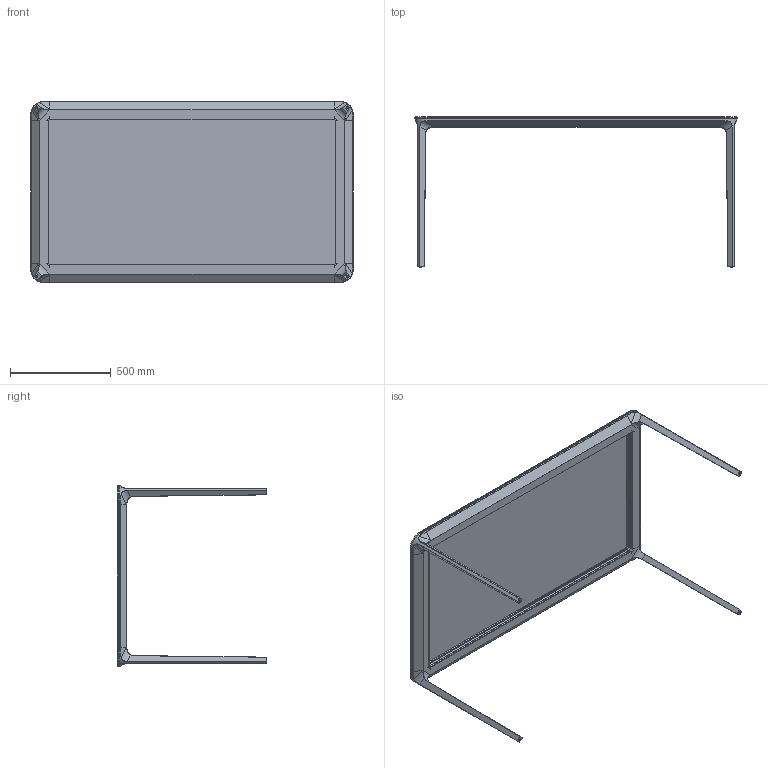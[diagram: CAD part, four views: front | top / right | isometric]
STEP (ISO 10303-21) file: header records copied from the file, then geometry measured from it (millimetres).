
FILE_DESCRIPTION(/* description */ (''),/* implementation_level */ '2;1');
FILE_NAME(/* name */ 'C:\AutodeskVault\AreaLavoro\Progetti\SoVeT Italia\1. Tavoli_Dining tables\Slim\Slim 8\Web file\Slim 8 Web\P1738.stp',/* time_stamp */ '2014-06-06T12:27:43+02:00',/* author */ ('Gianluca'),/* organization */ ('So.Ve.T. s.r.l.'),/* preprocessor_version */ 'ST-DEVELOPER v15.2',/* originating_system */ 'Autodesk Inventor 2014',/* authorisation */ 'IL PROGETTO E'' DI ESCLUSIVA PROPRIETA'' DELLA SO.VE.T. srl. E'' VIETATA OGNI RIPRODUZIONE TOTALE O PARZIALE E QUALSIASI UTILIZZO NON AUTORIZZATO.');
FILE_SCHEMA (('AUTOMOTIVE_DESIGN { 1 0 10303 214 3 1 1 }'));
Length unit declared in the file: centimetre
Products named in the file (1): P1738 Contorno semplificato
Bounding box: 1596 x 743 x 896 mm (x, y, z)
Volume: 25669632.1 mm3; surface area: 4420097 mm2
Topology: 2 solids, 2 shells, 332 faces, 872 edges, 544 vertices
Faces by surface type: plane 172, cylinder 112, bspline 32, cone 8, sphere 4, torus 4
Full cylindrical faces by diameter (mm): 12 x4
Entity records: 11569 total; most frequent: CARTESIAN_POINT 3167, ORIENTED_EDGE 1736, DIRECTION 1682, EDGE_CURVE 860, AXIS2_PLACEMENT_3D 569, LINE 544, VECTOR 544, VERTEX_POINT 540
